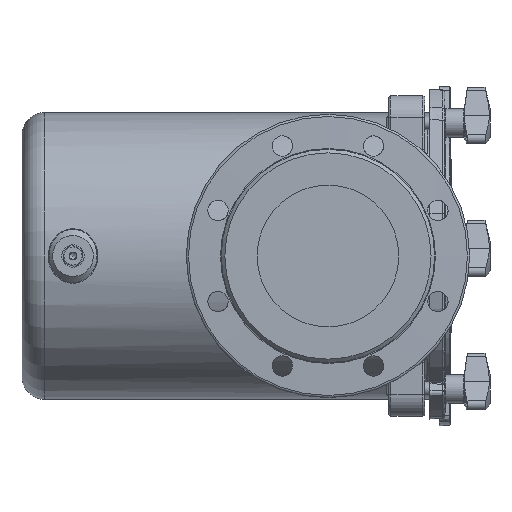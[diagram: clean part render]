
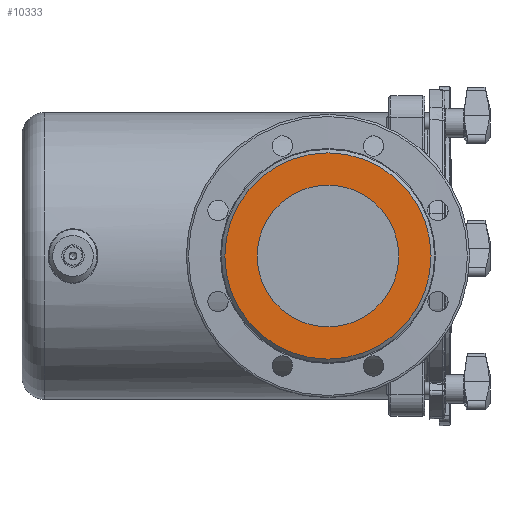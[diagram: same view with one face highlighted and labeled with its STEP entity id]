
A CAD part, left-side view. The second image highlights one B-rep face of the part: STEP entity #10333.
In plain terms, the highlighted planar face has unit normal (-1, 0, 0).
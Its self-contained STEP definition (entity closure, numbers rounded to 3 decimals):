
#1381=ORIENTED_EDGE('',*,*,#3476,.T.);
#1382=ORIENTED_EDGE('',*,*,#3478,.F.);
#3476=EDGE_CURVE('',#4526,#4526,#5217,.T.);
#3478=EDGE_CURVE('',#4528,#4528,#5219,.T.);
#4526=VERTEX_POINT('',#13178);
#4528=VERTEX_POINT('',#13184);
#5217=CIRCLE('',#10824,62.5);
#5219=CIRCLE('',#10828,91.);
#5558=EDGE_LOOP('',(#1381));
#5559=EDGE_LOOP('',(#1382));
#6195=FACE_BOUND('',#5558,.T.);
#6196=FACE_BOUND('',#5559,.T.);
#6829=PLANE('',#10827);
#10333=ADVANCED_FACE('',(#6195,#6196),#6829,.F.);
#10824=AXIS2_PLACEMENT_3D('',#13177,#11523,#11524);
#10827=AXIS2_PLACEMENT_3D('',#13182,#11529,#11530);
#10828=AXIS2_PLACEMENT_3D('',#13183,#11531,#11532);
#11523=DIRECTION('',(1.,0.,0.));
#11524=DIRECTION('',(0.,1.,0.));
#11529=DIRECTION('',(1.,0.,0.));
#11530=DIRECTION('',(0.,1.,0.));
#11531=DIRECTION('',(1.,0.,0.));
#11532=DIRECTION('',(0.,1.,0.));
#13177=CARTESIAN_POINT('',(-190.,93.,0.));
#13178=CARTESIAN_POINT('',(-190.,155.5,0.));
#13182=CARTESIAN_POINT('',(-190.,267.054,620.339));
#13183=CARTESIAN_POINT('',(-190.,93.,0.));
#13184=CARTESIAN_POINT('',(-190.,184.,0.));
